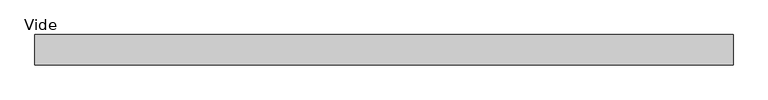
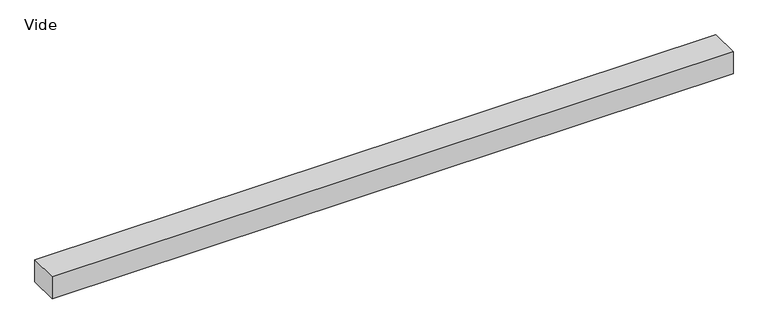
"""IFC4 building model written with IfcOpenShell, lengths in millimetres: plate geometry, Panneau système vide : Vide."""

from ifc_helpers import new_model, si_unit, origin, origin_with_axes, place, context, project, spatial, polyline, outline, extrude, source, transform, mapped, element, save


def vide_e340dee7(model_context):
    return source(origin(), model_context, "Body", "SweptSolid", [
        extrude(outline(polyline([(1149.0935453, 50.0), (-1149.0935453, 50.0), (-1149.0935453, 150.0), (1149.0935453, 150.0), (1149.0935453, 50.0)])), origin_with_axes(), (0.0, 0.0, 1.0), 77.9248737),
    ])


if __name__ == "__main__":
    model = new_model("IFC4")
    model_context = context("Model", 3, world=origin())
    ifc_project = project(units=[si_unit("LENGTHUNIT", "METRE", prefix="MILLI")], contexts=[model_context])
    site = spatial("IfcSite", under=ifc_project)
    building = spatial("IfcBuilding", under=site)
    placement = place(None, origin())
    vide_shape = vide_e340dee7(model_context)
    element("IfcPlate", 1, ObjectType="Panneau système vide : Vide", at=placement, inside=building, context=model_context, shape_type="MappedRepresentation", body=[
        mapped(vide_shape, transform((0.0, 0.0, 0.0), x_axis=(1.0, 0.0, 0.0), y_axis=(0.0, 1.0, 0.0), z_axis=(0.0, 0.0, 1.0))),
    ])
    save(model, "model.ifc")
